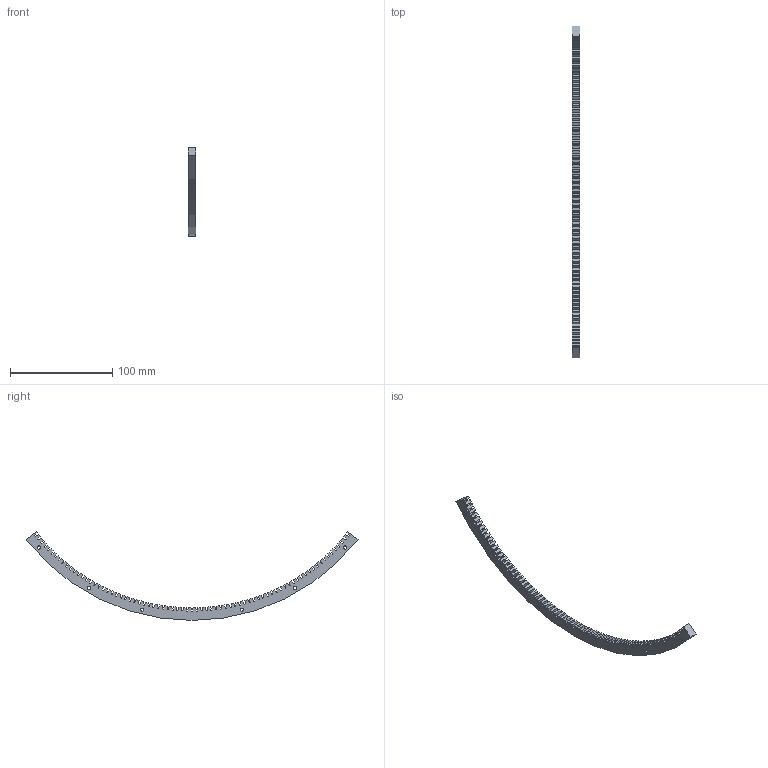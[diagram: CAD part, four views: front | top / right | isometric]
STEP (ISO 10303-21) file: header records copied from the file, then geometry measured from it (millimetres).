
FILE_DESCRIPTION(('Open CASCADE Model'),'2;1');
FILE_NAME('Open CASCADE Shape Model','2026-10-18T22:58:37',('Author'),( 'Open CASCADE'),'Open CASCADE STEP processor 7.9','Open CASCADE 7.9' ,'Unknown');
FILE_SCHEMA(('AUTOMOTIVE_DESIGN { 1 0 10303 214 1 1 1 1 }'));
Length unit declared in the file: millimetre
Products named in the file (1): Open CASCADE STEP translator 7.9 33
Bounding box: 7.5 x 324.66 x 86.87 mm (x, y, z)
Volume: 30754.9 mm3; surface area: 17521.8 mm2
Topology: 1 solids, 1 shells, 319 faces, 945 edges, 628 vertices
Faces by surface type: plane 305, cylinder 14
Full cylindrical faces by diameter (mm): 3.3 x12
Entity records: 22792 total; most frequent: CARTESIAN_POINT 3871, DIRECTION 3469, LINE 2781, VECTOR 2781, ORIENTED_EDGE 1890, PCURVE 1890, DEFINITIONAL_REPRESENTATION 1890, EDGE_CURVE 945
